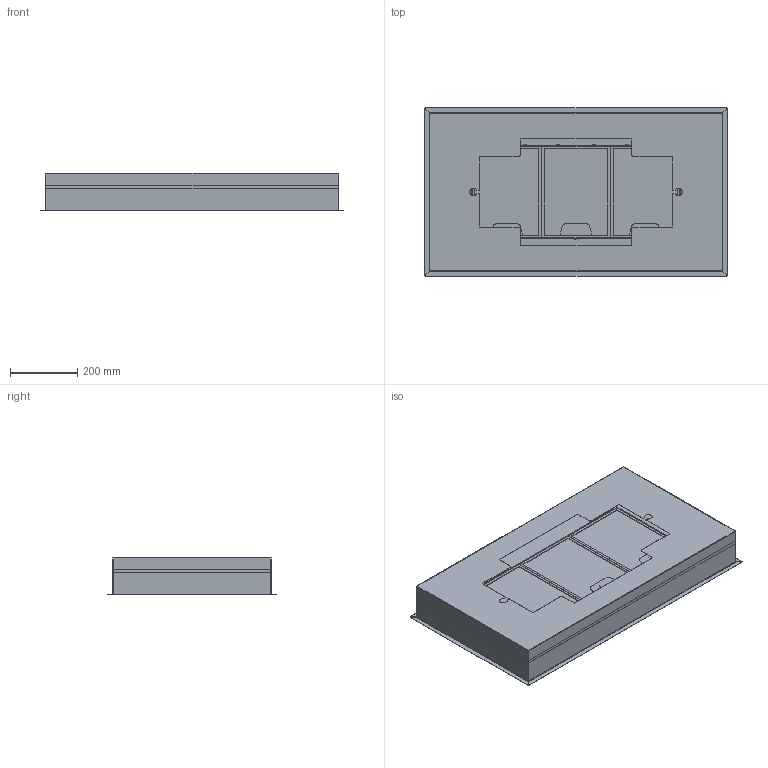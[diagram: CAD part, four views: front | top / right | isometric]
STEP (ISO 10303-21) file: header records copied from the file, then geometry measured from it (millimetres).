
FILE_DESCRIPTION(/* description */ (''),/* implementation_level */ '2;1');
FILE_NAME(/* name */ '3D001_Hoods_Mythos_FCMY-90-C-FL',/* time_stamp */ '2024-02-14T11:38:39+01:00',/* author */ (''),/* organization */ (''),/* preprocessor_version */ 'ST-DEVELOPER v19.2',/* originating_system */ 'Rhino 8.3',/* authorisation */ '');
FILE_SCHEMA (('CONFIG_CONTROL_DESIGN'));
Length unit declared in the file: millimetre
Products named in the file (16): Document; FIA_08322; 59A_1120_ASM; 59A_260; 59A_261; 59A_1119_ASM; 59A_1118_ASM; 59A_262; A65_724_ASM31; A65_02924; A65_03225; A65_03126; 59A_1115_ASM; 59A_23414; 59A_258; Blocco 05
Bounding box: 898.6 x 498.6 x 112.5 mm (x, y, z)
Volume: 2050702.6 mm3; surface area: 3566244.2 mm2
Topology: 16 solids, 28 shells, 1494 faces, 3929 edges, 2374 vertices
Faces by surface type: plane 907, cylinder 424, bspline 163
Entity records: 45502 total; most frequent: CARTESIAN_POINT 20193, ORIENTED_EDGE 6076, EDGE_CURVE 3143, B_SPLINE_CURVE_WITH_KNOTS 2487, DIRECTION 2446, VERTEX_POINT 1866, AXIS2_PLACEMENT_3D 1744, EDGE_LOOP 1259
